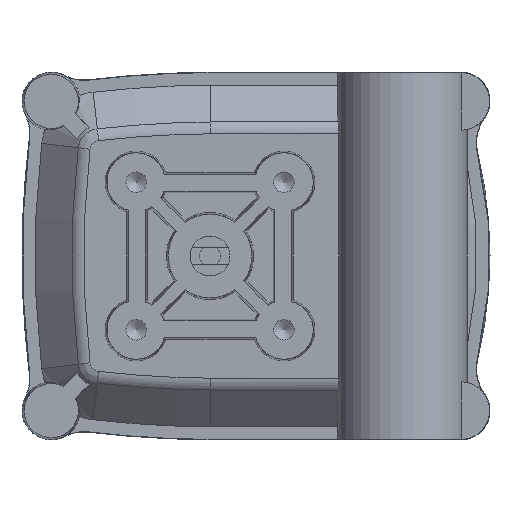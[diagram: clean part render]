
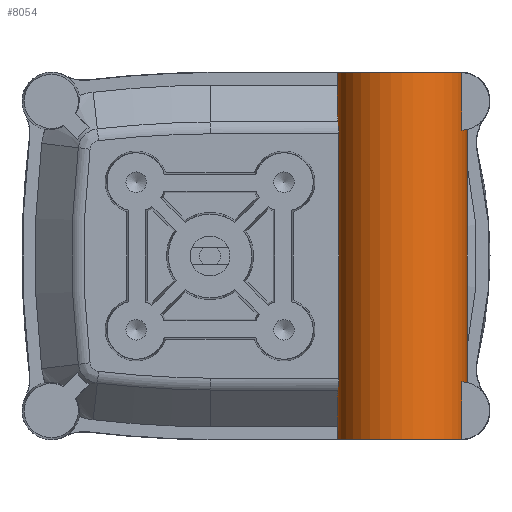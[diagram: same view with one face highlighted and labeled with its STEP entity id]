
A CAD part, front view. The second image highlights one B-rep face of the part: STEP entity #8054.
In plain terms, the highlighted cylindrical face has radius 15.5 mm (diameter 31 mm), a partial arc.
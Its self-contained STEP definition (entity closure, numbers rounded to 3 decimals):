
#16=ELLIPSE('',#8658,21.92,15.5);
#17=ELLIPSE('',#8661,21.92,15.5);
#120=CYLINDRICAL_SURFACE('',#8657,15.5);
#499=B_SPLINE_CURVE_WITH_KNOTS('',3,(#16291,#16292,#16293,#16294,#16295,
#16296,#16297,#16298),.UNSPECIFIED.,.F.,.F.,(4,2,2,4),(1.379,
1.5,1.732,1.964),.UNSPECIFIED.);
#500=B_SPLINE_CURVE_WITH_KNOTS('',3,(#16301,#16302,#16303,#16304,#16305,
#16306,#16307,#16308),.UNSPECIFIED.,.F.,.F.,(4,2,2,4),(5.892,
6.124,6.356,6.478),.UNSPECIFIED.);
#501=B_SPLINE_CURVE_WITH_KNOTS('',3,(#16310,#16311,#16312,#16313,#16314,
#16315,#16316,#16317),.UNSPECIFIED.,.F.,.F.,(4,2,2,4),(1.379,
1.5,1.732,1.964),.UNSPECIFIED.);
#502=B_SPLINE_CURVE_WITH_KNOTS('',3,(#16320,#16321,#16322,#16323,#16324,
#16325,#16326,#16327),.UNSPECIFIED.,.F.,.F.,(4,2,2,4),(5.892,
6.124,6.356,6.478),.UNSPECIFIED.);
#503=B_SPLINE_CURVE_WITH_KNOTS('',3,(#16332,#16333,#16334,#16335,#16336,
#16337),.UNSPECIFIED.,.F.,.F.,(4,2,4),(1.213,1.364,
1.515),.UNSPECIFIED.);
#504=B_SPLINE_CURVE_WITH_KNOTS('',3,(#16340,#16341,#16342,#16343,#16344,
#16345),.UNSPECIFIED.,.F.,.F.,(4,2,4),(-0.302,-0.151,
0.),.UNSPECIFIED.);
#960=LINE('',#16220,#1526);
#968=LINE('',#16236,#1534);
#979=LINE('',#16269,#1545);
#983=LINE('',#16277,#1549);
#985=LINE('',#16283,#1551);
#988=LINE('',#16300,#1554);
#989=LINE('',#16319,#1555);
#990=LINE('',#16339,#1556);
#1526=VECTOR('',#10254,10.);
#1534=VECTOR('',#10264,10.);
#1545=VECTOR('',#10285,10.);
#1549=VECTOR('',#10291,10.);
#1551=VECTOR('',#10295,10.);
#1554=VECTOR('',#10304,10.);
#1555=VECTOR('',#10305,10.);
#1556=VECTOR('',#10310,10.);
#2212=FACE_OUTER_BOUND('',#2685,.T.);
#2685=EDGE_LOOP('',(#6832,#6833,#6834,#6835,#6836,#6837,#6838,#6839,#6840,
#6841,#6842,#6843,#6844,#6845,#6846,#6847,#6848,#6849));
#3046=CIRCLE('',#8659,15.5);
#3047=CIRCLE('',#8660,15.5);
#3760=VERTEX_POINT('',#16216);
#3762=VERTEX_POINT('',#16219);
#3766=VERTEX_POINT('',#16228);
#3769=VERTEX_POINT('',#16234);
#3777=VERTEX_POINT('',#16253);
#3783=VERTEX_POINT('',#16267);
#3785=VERTEX_POINT('',#16272);
#3786=VERTEX_POINT('',#16275);
#3787=VERTEX_POINT('',#16279);
#3789=VERTEX_POINT('',#16282);
#3790=VERTEX_POINT('',#16287);
#3791=VERTEX_POINT('',#16290);
#3792=VERTEX_POINT('',#16299);
#3793=VERTEX_POINT('',#16309);
#3794=VERTEX_POINT('',#16318);
#3795=VERTEX_POINT('',#16329);
#3796=VERTEX_POINT('',#16331);
#3797=VERTEX_POINT('',#16338);
#4824=EDGE_CURVE('',#3760,#3762,#960,.T.);
#4832=EDGE_CURVE('',#3769,#3766,#968,.T.);
#4846=EDGE_CURVE('',#3783,#3777,#979,.T.);
#4850=EDGE_CURVE('',#3786,#3785,#983,.T.);
#4852=EDGE_CURVE('',#3787,#3789,#985,.T.);
#4855=EDGE_CURVE('',#3766,#3790,#16,.T.);
#4856=EDGE_CURVE('',#3789,#3769,#3046,.T.);
#4857=EDGE_CURVE('',#3791,#3787,#499,.T.);
#4858=EDGE_CURVE('',#3792,#3791,#988,.T.);
#4859=EDGE_CURVE('',#3777,#3792,#500,.T.);
#4860=EDGE_CURVE('',#3793,#3783,#501,.T.);
#4861=EDGE_CURVE('',#3794,#3793,#989,.T.);
#4862=EDGE_CURVE('',#3785,#3794,#502,.T.);
#4863=EDGE_CURVE('',#3762,#3786,#3047,.T.);
#4864=EDGE_CURVE('',#3795,#3760,#17,.T.);
#4865=EDGE_CURVE('',#3796,#3795,#503,.T.);
#4866=EDGE_CURVE('',#3797,#3796,#990,.T.);
#4867=EDGE_CURVE('',#3790,#3797,#504,.T.);
#6832=ORIENTED_EDGE('',*,*,#4855,.F.);
#6833=ORIENTED_EDGE('',*,*,#4832,.F.);
#6834=ORIENTED_EDGE('',*,*,#4856,.F.);
#6835=ORIENTED_EDGE('',*,*,#4852,.F.);
#6836=ORIENTED_EDGE('',*,*,#4857,.F.);
#6837=ORIENTED_EDGE('',*,*,#4858,.F.);
#6838=ORIENTED_EDGE('',*,*,#4859,.F.);
#6839=ORIENTED_EDGE('',*,*,#4846,.F.);
#6840=ORIENTED_EDGE('',*,*,#4860,.F.);
#6841=ORIENTED_EDGE('',*,*,#4861,.F.);
#6842=ORIENTED_EDGE('',*,*,#4862,.F.);
#6843=ORIENTED_EDGE('',*,*,#4850,.F.);
#6844=ORIENTED_EDGE('',*,*,#4863,.F.);
#6845=ORIENTED_EDGE('',*,*,#4824,.F.);
#6846=ORIENTED_EDGE('',*,*,#4864,.F.);
#6847=ORIENTED_EDGE('',*,*,#4865,.F.);
#6848=ORIENTED_EDGE('',*,*,#4866,.F.);
#6849=ORIENTED_EDGE('',*,*,#4867,.F.);
#8054=ADVANCED_FACE('',(#2212),#120,.T.);
#8657=AXIS2_PLACEMENT_3D('',#16286,#10298,#10299);
#8658=AXIS2_PLACEMENT_3D('',#16288,#10300,#10301);
#8659=AXIS2_PLACEMENT_3D('',#16289,#10302,#10303);
#8660=AXIS2_PLACEMENT_3D('',#16328,#10306,#10307);
#8661=AXIS2_PLACEMENT_3D('',#16330,#10308,#10309);
#10254=DIRECTION('',(0.,0.,1.));
#10264=DIRECTION('',(0.,0.,1.));
#10285=DIRECTION('',(0.,0.,-1.));
#10291=DIRECTION('',(0.,0.,-1.));
#10295=DIRECTION('',(0.,0.,-1.));
#10298=DIRECTION('center_axis',(0.,0.,1.));
#10299=DIRECTION('ref_axis',(1.,0.,0.));
#10300=DIRECTION('center_axis',(0.,0.707,
0.707));
#10301=DIRECTION('ref_axis',(0.,0.707,-0.707));
#10302=DIRECTION('center_axis',(0.,0.,-1.));
#10303=DIRECTION('ref_axis',(1.,0.,0.));
#10304=DIRECTION('',(0.,0.,-1.));
#10305=DIRECTION('',(0.,0.,-1.));
#10306=DIRECTION('center_axis',(0.,0.,1.));
#10307=DIRECTION('ref_axis',(1.,0.,0.));
#10308=DIRECTION('center_axis',(0.,0.707,
-0.707));
#10309=DIRECTION('ref_axis',(0.,0.707,0.707));
#10310=DIRECTION('',(0.,0.,1.));
#16216=CARTESIAN_POINT('',(30.5,15.,33.9));
#16219=CARTESIAN_POINT('',(30.5,15.,43.9));
#16220=CARTESIAN_POINT('',(30.5,15.,0.));
#16228=CARTESIAN_POINT('',(30.5,15.,-33.9));
#16234=CARTESIAN_POINT('',(30.5,15.,-43.9));
#16236=CARTESIAN_POINT('',(30.5,15.,0.));
#16253=CARTESIAN_POINT('',(61.5,15.,-30.265));
#16267=CARTESIAN_POINT('',(61.5,15.,30.265));
#16269=CARTESIAN_POINT('',(61.5,15.,0.));
#16272=CARTESIAN_POINT('',(61.5,15.,43.735));
#16275=CARTESIAN_POINT('',(61.5,15.,43.9));
#16277=CARTESIAN_POINT('',(61.5,15.,0.));
#16279=CARTESIAN_POINT('',(61.5,15.,-43.735));
#16282=CARTESIAN_POINT('',(61.5,15.,-43.9));
#16283=CARTESIAN_POINT('',(61.5,15.,0.));
#16286=CARTESIAN_POINT('Origin',(46.,15.,0.));
#16287=CARTESIAN_POINT('',(30.608,13.172,-32.072));
#16288=CARTESIAN_POINT('Origin',(46.,15.,-33.9));
#16289=CARTESIAN_POINT('Origin',(46.,15.,-43.9));
#16290=CARTESIAN_POINT('',(60.292,9.,-43.894));
#16291=CARTESIAN_POINT('Ctrl Pts',(60.292,9.,-43.894));
#16292=CARTESIAN_POINT('Ctrl Pts',(60.458,9.396,-43.887));
#16293=CARTESIAN_POINT('Ctrl Pts',(60.609,9.802,-43.874));
#16294=CARTESIAN_POINT('Ctrl Pts',(60.998,11.,-43.832));
#16295=CARTESIAN_POINT('Ctrl Pts',(61.19,11.81,-43.798));
#16296=CARTESIAN_POINT('Ctrl Pts',(61.441,13.423,-43.749));
#16297=CARTESIAN_POINT('Ctrl Pts',(61.5,14.226,-43.735));
#16298=CARTESIAN_POINT('Ctrl Pts',(61.5,15.,-43.735));
#16299=CARTESIAN_POINT('',(60.292,9.,-30.106));
#16300=CARTESIAN_POINT('',(60.292,9.,0.));
#16301=CARTESIAN_POINT('Ctrl Pts',(61.5,15.,-30.265));
#16302=CARTESIAN_POINT('Ctrl Pts',(61.5,14.226,-30.265));
#16303=CARTESIAN_POINT('Ctrl Pts',(61.441,13.423,-30.251));
#16304=CARTESIAN_POINT('Ctrl Pts',(61.19,11.81,-30.202));
#16305=CARTESIAN_POINT('Ctrl Pts',(60.998,11.,-30.168));
#16306=CARTESIAN_POINT('Ctrl Pts',(60.609,9.802,-30.126));
#16307=CARTESIAN_POINT('Ctrl Pts',(60.458,9.396,-30.113));
#16308=CARTESIAN_POINT('Ctrl Pts',(60.292,9.,-30.106));
#16309=CARTESIAN_POINT('',(60.292,9.,30.106));
#16310=CARTESIAN_POINT('Ctrl Pts',(60.292,9.,30.106));
#16311=CARTESIAN_POINT('Ctrl Pts',(60.458,9.396,30.113));
#16312=CARTESIAN_POINT('Ctrl Pts',(60.609,9.802,30.126));
#16313=CARTESIAN_POINT('Ctrl Pts',(60.998,11.,30.168));
#16314=CARTESIAN_POINT('Ctrl Pts',(61.19,11.81,30.202));
#16315=CARTESIAN_POINT('Ctrl Pts',(61.441,13.423,30.251));
#16316=CARTESIAN_POINT('Ctrl Pts',(61.5,14.226,30.265));
#16317=CARTESIAN_POINT('Ctrl Pts',(61.5,15.,30.265));
#16318=CARTESIAN_POINT('',(60.292,9.,43.894));
#16319=CARTESIAN_POINT('',(60.292,9.,0.));
#16320=CARTESIAN_POINT('Ctrl Pts',(61.5,15.,43.735));
#16321=CARTESIAN_POINT('Ctrl Pts',(61.5,14.226,43.735));
#16322=CARTESIAN_POINT('Ctrl Pts',(61.441,13.423,43.749));
#16323=CARTESIAN_POINT('Ctrl Pts',(61.19,11.81,43.798));
#16324=CARTESIAN_POINT('Ctrl Pts',(60.998,11.,43.832));
#16325=CARTESIAN_POINT('Ctrl Pts',(60.609,9.802,43.874));
#16326=CARTESIAN_POINT('Ctrl Pts',(60.458,9.396,43.887));
#16327=CARTESIAN_POINT('Ctrl Pts',(60.292,9.,43.894));
#16328=CARTESIAN_POINT('Origin',(46.,15.,43.9));
#16329=CARTESIAN_POINT('',(30.608,13.172,32.072));
#16330=CARTESIAN_POINT('Origin',(46.,15.,33.9));
#16331=CARTESIAN_POINT('',(30.793,12.,29.243));
#16332=CARTESIAN_POINT('Ctrl Pts',(30.793,12.,29.243));
#16333=CARTESIAN_POINT('Ctrl Pts',(30.793,12.,29.747));
#16334=CARTESIAN_POINT('Ctrl Pts',(30.772,12.101,30.283));
#16335=CARTESIAN_POINT('Ctrl Pts',(30.7,12.509,31.268));
#16336=CARTESIAN_POINT('Ctrl Pts',(30.65,12.817,31.717));
#16337=CARTESIAN_POINT('Ctrl Pts',(30.608,13.172,32.072));
#16338=CARTESIAN_POINT('',(30.793,12.,-29.243));
#16339=CARTESIAN_POINT('',(30.793,12.,0.));
#16340=CARTESIAN_POINT('Ctrl Pts',(30.608,13.172,-32.072));
#16341=CARTESIAN_POINT('Ctrl Pts',(30.65,12.817,-31.717));
#16342=CARTESIAN_POINT('Ctrl Pts',(30.7,12.51,-31.269));
#16343=CARTESIAN_POINT('Ctrl Pts',(30.772,12.101,-30.284));
#16344=CARTESIAN_POINT('Ctrl Pts',(30.793,12.,-29.747));
#16345=CARTESIAN_POINT('Ctrl Pts',(30.793,12.,-29.243));
